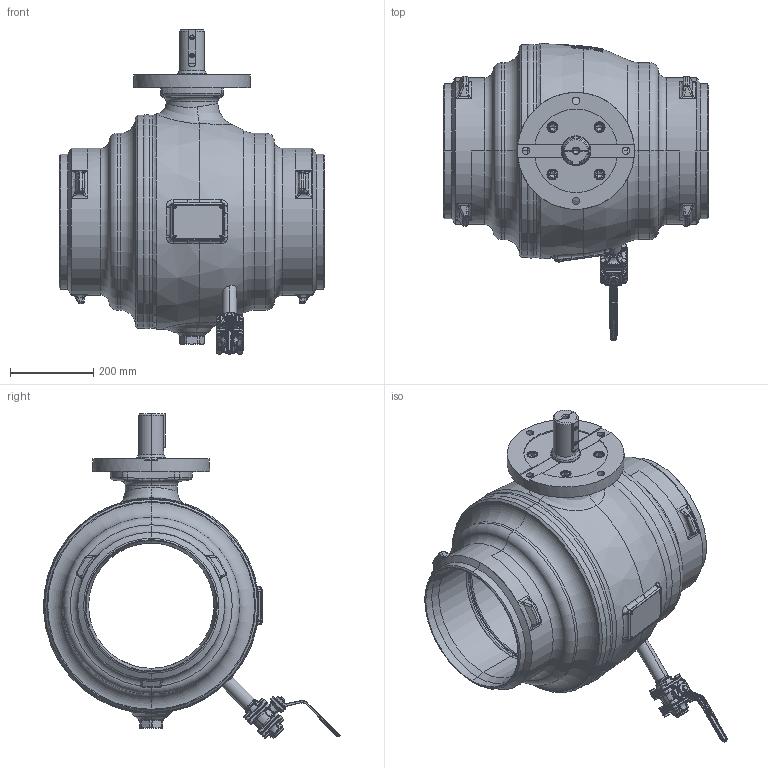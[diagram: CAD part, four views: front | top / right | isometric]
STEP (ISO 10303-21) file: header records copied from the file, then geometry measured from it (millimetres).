
FILE_DESCRIPTION((''),'2;1');
FILE_NAME('KHSVI_300_FR_WE_ENTL','2026-01-27T14:23:32',('schwaba'),('KLINGER'),'CREO PARAMETRIC BY PTC INC, 2023014','CREO PARAMETRIC BY PTC INC, 2023014','');
FILE_SCHEMA(('CONFIG_CONTROL_DESIGN'));
Length unit declared in the file: millimetre
Products named in the file (1): KHSVI_300_FR_WE_ENTL
Bounding box: 635 x 711.38 x 777.38 mm (x, y, z)
Volume: 33503539.8 mm3; surface area: 3786211.2 mm2
Topology: 5 solids, 5 shells, 3152 faces, 7590 edges, 4539 vertices
Faces by surface type: plane 989, cylinder 780, bspline 500, torus 470, cone 325, sphere 67, revolution 16, extrusion 5
Entity records: 185464 total; most frequent: CARTESIAN_POINT 115028, ORIENTED_EDGE 15120, DIRECTION 14624, EDGE_CURVE 7560, AXIS2_PLACEMENT_3D 6207, VERTEX_POINT 4539, CIRCLE 3573, EDGE_LOOP 3363
